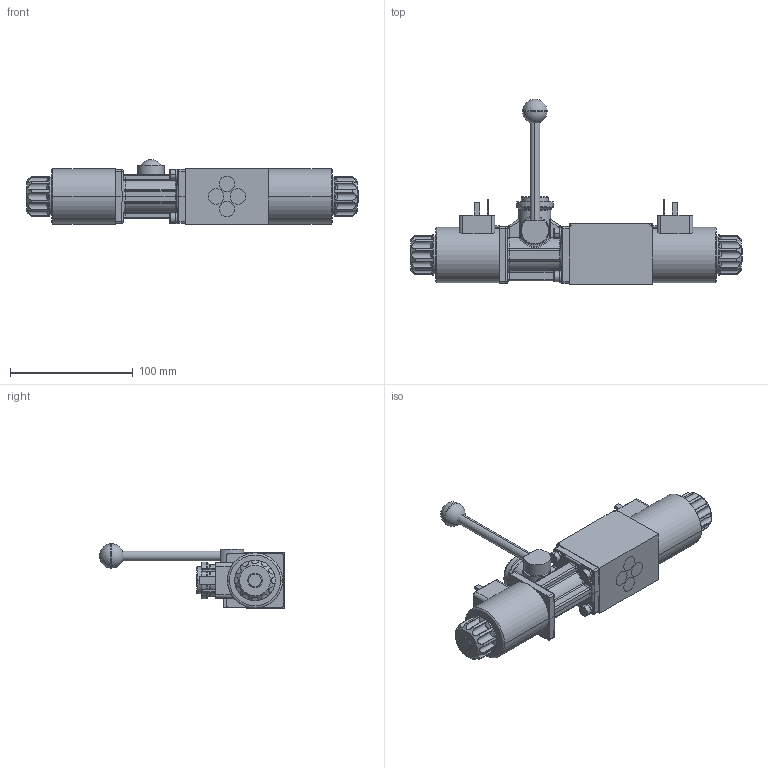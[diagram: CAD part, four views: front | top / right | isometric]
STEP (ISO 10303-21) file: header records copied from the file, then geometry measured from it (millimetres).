
FILE_DESCRIPTION((''),'2;1');
FILE_NAME('RPEM3_ODLITEK_ROBUST_SW0001','2016-04-01T',('d.helta'),(''),'PRO/ENGINEER BY PARAMETRIC TECHNOLOGY CORPORATION, 2015110','PRO/ENGINEER BY PARAMETRIC TECHNOLOGY CORPORATION, 2015110','');
FILE_SCHEMA(('AUTOMOTIVE_DESIGN { 1 0 10303 214 1 1 1 1 }'));
Length unit declared in the file: millimetre
Products named in the file (1): RPEM3_ODLITEK_ROBUST_SW0001
Bounding box: 270.7 x 151.21 x 52.73 mm (x, y, z)
Surface area: 71494.1 mm2 (no closed solid volume)
Topology: 0 solids, 34 shells, 519 faces, 1321 edges, 832 vertices
Faces by surface type: cylinder 211, plane 138, bspline 71, cone 48, sphere 31, torus 20
Entity records: 34367 total; most frequent: CARTESIAN_POINT 13476, ORIENTED_EDGE 2464, DIRECTION 2275, PRESENTATION_STYLE_ASSIGNMENT 1814, STYLED_ITEM 1347, CURVE_STYLE 1322, EDGE_CURVE 1318, AXIS2_PLACEMENT_3D 865
